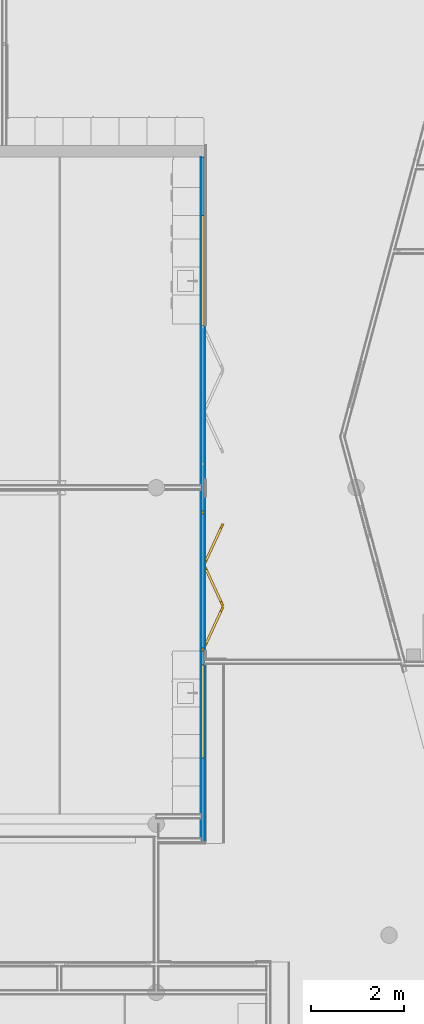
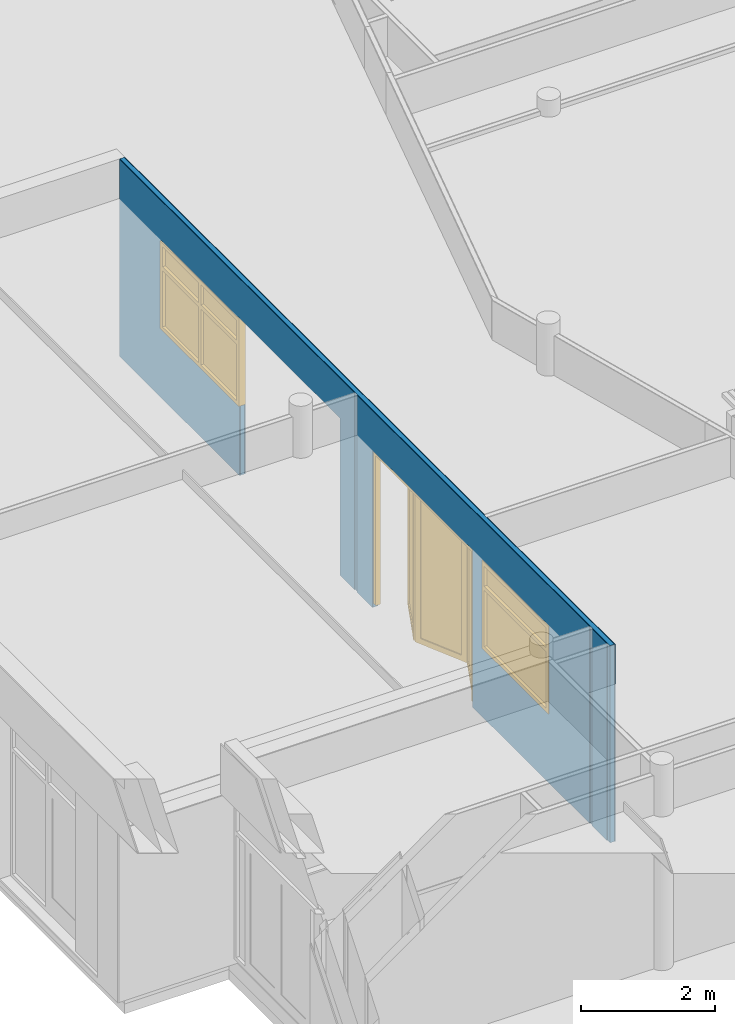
# One storey, part 28 of 167: 3 building element parts, 2 windows, 1 door, 4 openings, 1 element without a shape of its own.
"""IFC2X3 building model written with IfcOpenShell, lengths in millimetres."""

from ifc_helpers import new_model, entity, si_unit, converted_unit, derived_unit, money_unit, direction, frame, origin_with_axes, place, context, subcontext, project, spatial, open_shell, faceted_brep, surface_model, source, transform, mapped, material, type_object, type_shapes, element, fill, aggregate, save


model = new_model("IFC2X3")

# Units and contexts
model_context = context("Model", 3, precision=0.01, world=origin_with_axes(), true_north=direction((0.0, 1.0)))
plan_context = context("Plan", 3, precision=0.01, world=origin_with_axes(), true_north=direction((0.0, 1.0)))
body_context = subcontext(model_context, "Body", "Model", "MODEL_VIEW")
ifc_project = project(units=[si_unit("LENGTHUNIT", "METRE", prefix="MILLI"), si_unit("AREAUNIT", "SQUARE_METRE"), si_unit("VOLUMEUNIT", "CUBIC_METRE"), converted_unit("PLANEANGLEUNIT", "DEGREE", entity("IfcPlaneAngleMeasure", 0.0174532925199), si_unit("PLANEANGLEUNIT", "RADIAN"), dimensions=[0, 0, 0, 0, 0, 0, 0]), si_unit("SOLIDANGLEUNIT", "STERADIAN"), money_unit("EUR"), converted_unit("TIMEUNIT", "Year", entity("IfcTimeMeasure", 31556926.0), si_unit("TIMEUNIT", "SECOND"), dimensions=[0, 0, 1, 0, 0, 0, 0]), si_unit("MASSUNIT", "GRAM", prefix="KILO"), si_unit("THERMODYNAMICTEMPERATUREUNIT", "DEGREE_CELSIUS"), si_unit("LUMINOUSINTENSITYUNIT", "LUMEN"), si_unit("ENERGYUNIT", "JOULE", prefix="MEGA"), derived_unit("THERMALCONDUCTANCEUNIT", [(si_unit("POWERUNIT", "WATT"), 1), (si_unit("LENGTHUNIT", "METRE"), -1), (si_unit("THERMODYNAMICTEMPERATUREUNIT", "KELVIN"), -1)]), derived_unit("SPECIFICHEATCAPACITYUNIT", [(si_unit("ENERGYUNIT", "JOULE"), 1), (si_unit("MASSUNIT", "GRAM", prefix="KILO"), -1), (si_unit("THERMODYNAMICTEMPERATUREUNIT", "KELVIN"), -1)]), derived_unit("MASSDENSITYUNIT", [(si_unit("MASSUNIT", "GRAM", prefix="KILO"), 1), (si_unit("VOLUMEUNIT", "CUBIC_METRE"), -1)])], contexts=[model_context, plan_context])

# Site, building, storey
site_placement = place(None, origin_with_axes())
site = spatial("IfcSite", under=ifc_project, at=site_placement, Name="Site", CompositionType="ELEMENT")
building_placement = place(site_placement, origin_with_axes())
building = spatial("IfcBuilding", under=site, at=building_placement, Name="Naam gebouw", CompositionType="ELEMENT")
storey_placement = place(building_placement, origin_with_axes())
storey = spatial("IfcBuildingStorey", under=building, at=storey_placement, Name="Begane grond", CompositionType="ELEMENT", Elevation=0.0)

# Window
window_style_1 = type_object("IfcWindowStyle", Name="R2 bl ol 24", ConstructionType="NOTDEFINED", OperationType="USERDEFINED", ParameterTakesPrecedence=False, Sizeable=False)
shared_shape_1 = source(origin_with_axes(), body_context, "Body", "SurfaceModel", [
    faceted_brep([(-1108.0, -114.0, 1092.4), (-1108.0, 0.0, 1092.4), (-1108.0, 0.0, 1167.4), (-1108.0, -114.0, 1167.4), (-1108.0, -114.0, 67.0), (-1108.0, 0.0, 67.0), (-1175.0, 0.0, 67.0), (-1175.0, 0.0, 1533.0), (-1108.0, 0.0, 1533.0), (-1108.0, -114.0, 1533.0), (-1175.0, -114.0, 1533.0), (-1175.0, -114.0, 67.0)], [[[0, 1, 2, 3]], [[4, 5, 1, 0]], [[1, 5, 6, 7, 8, 2]], [[3, 2, 8, 9]], [[0, 3, 9, 10, 11, 4]], [[11, 6, 5, 4]], [[10, 7, 6, 11]], [[9, 8, 7, 10]]]),
    faceted_brep([(1108.0, -114.0, 67.0), (1108.0, 0.0, 67.0), (1175.0, 0.0, 67.0), (1175.0, -114.0, 67.0), (1108.0, -114.0, 1092.4), (1108.0, 0.0, 1092.4), (1108.0, 0.0, 1167.4), (1108.0, 0.0, 1533.0), (1175.0, 0.0, 1533.0), (1175.0, -114.0, 1533.0), (1108.0, -114.0, 1533.0), (1108.0, -114.0, 1167.4)], [[[0, 1, 2, 3]], [[4, 5, 1, 0]], [[1, 5, 6, 7, 8, 2]], [[3, 2, 8, 9]], [[0, 3, 9, 10, 11, 4]], [[11, 6, 5, 4]], [[10, 7, 6, 11]], [[9, 8, 7, 10]]]),
    faceted_brep([(-37.5, -114.0, 1167.4), (-37.5, 0.0, 1167.4), (-37.5, 0.0, 1092.4), (-37.5, -114.0, 1092.4), (-37.5, -114.0, 1533.0), (-37.5, 0.0, 1533.0), (37.5, 0.0, 1533.0), (37.5, 0.0, 1167.4), (37.5, 0.0, 1092.4), (37.5, 0.0, 67.0), (-37.5, 0.0, 67.0), (-37.5, -114.0, 67.0), (37.5, -114.0, 67.0), (37.5, -114.0, 1092.4), (37.5, -114.0, 1167.4), (37.5, -114.0, 1533.0)], [[[0, 1, 2, 3]], [[4, 5, 1, 0]], [[1, 5, 6, 7, 8, 9, 10, 2]], [[3, 2, 10, 11]], [[0, 3, 11, 12, 13, 14, 15, 4]], [[15, 6, 5, 4]], [[14, 7, 6, 15]], [[13, 8, 7, 14]], [[12, 9, 8, 13]], [[11, 10, 9, 12]]]),
    faceted_brep([(1108.0, -114.0, 1092.4), (1108.0, 0.0, 1092.4), (1108.0, 0.0, 1167.4), (1108.0, -114.0, 1167.4), (37.5, -114.0, 1092.4), (37.5, 0.0, 1092.4), (37.5, 0.0, 1167.4), (37.5, -114.0, 1167.4)], [[[0, 1, 2, 3]], [[4, 5, 1, 0]], [[1, 5, 6, 2]], [[3, 2, 6, 7]], [[0, 3, 7, 4]], [[7, 6, 5, 4]]]),
    faceted_brep([(-1108.0, -114.0, 1167.4), (-1108.0, 0.0, 1167.4), (-1108.0, 0.0, 1092.4), (-1108.0, -114.0, 1092.4), (-37.5, -114.0, 1167.4), (-37.5, 0.0, 1167.4), (-37.5, 0.0, 1092.4), (-37.5, -114.0, 1092.4)], [[[0, 1, 2, 3]], [[4, 5, 1, 0]], [[1, 5, 6, 2]], [[3, 2, 6, 7]], [[0, 3, 7, 4]], [[7, 6, 5, 4]]]),
    faceted_brep([(-1108.0, -114.0, 67.0), (-1108.0, 0.0, 67.0), (-1175.0, 0.0, 67.0), (-1175.0, -114.0, 67.0), (-37.5, -114.0, 67.0), (-37.5, 0.0, 67.0), (37.5, 0.0, 67.0), (1108.0, 0.0, 67.0), (1175.0, 0.0, 67.0), (1175.0, 0.0, 0.0), (-1175.0, 0.0, 0.0), (-1175.0, -114.0, 0.0), (1175.0, -114.0, 0.0), (1175.0, -114.0, 67.0), (1108.0, -114.0, 67.0), (37.5, -114.0, 67.0)], [[[0, 1, 2, 3]], [[4, 5, 1, 0]], [[1, 5, 6, 7, 8, 9, 10, 2]], [[3, 2, 10, 11]], [[0, 3, 11, 12, 13, 14, 15, 4]], [[15, 6, 5, 4]], [[14, 7, 6, 15]], [[13, 8, 7, 14]], [[12, 9, 8, 13]], [[11, 10, 9, 12]]]),
    faceted_brep([(-37.5, -114.0, 1533.0), (-37.5, 0.0, 1533.0), (37.5, 0.0, 1533.0), (37.5, -114.0, 1533.0), (-1108.0, -114.0, 1533.0), (-1108.0, 0.0, 1533.0), (-1175.0, 0.0, 1533.0), (-1175.0, 0.0, 1600.0), (1175.0, 0.0, 1600.0), (1175.0, 0.0, 1533.0), (1108.0, 0.0, 1533.0), (1108.0, -114.0, 1533.0), (1175.0, -114.0, 1533.0), (1175.0, -114.0, 1600.0), (-1175.0, -114.0, 1600.0), (-1175.0, -114.0, 1533.0)], [[[0, 1, 2, 3]], [[4, 5, 1, 0]], [[1, 5, 6, 7, 8, 9, 10, 2]], [[3, 2, 10, 11]], [[0, 3, 11, 12, 13, 14, 15, 4]], [[15, 6, 5, 4]], [[14, 7, 6, 15]], [[13, 8, 7, 14]], [[12, 9, 8, 13]], [[11, 10, 9, 12]]]),
    surface_model("IfcShellBasedSurfaceModel", [(-1108.0, -64.0, 1167.4), (-37.5, -64.0, 1167.4), (-37.5, -64.0, 1533.0), (-1108.0, -64.0, 1533.0)], [open_shell([[[0, 1, 2, 3]]])]),
    surface_model("IfcShellBasedSurfaceModel", [(-1108.0, -44.0, 1167.4), (-1108.0, -44.0, 1533.0), (-37.5, -44.0, 1533.0), (-37.5, -44.0, 1167.4)], [open_shell([[[0, 1, 2, 3]]])]),
    surface_model("IfcShellBasedSurfaceModel", [(37.5, -64.0, 1167.4), (1108.0, -64.0, 1167.4), (1108.0, -64.0, 1533.0), (37.5, -64.0, 1533.0)], [open_shell([[[0, 1, 2, 3]]])]),
    surface_model("IfcShellBasedSurfaceModel", [(37.5, -44.0, 1167.4), (37.5, -44.0, 1533.0), (1108.0, -44.0, 1533.0), (1108.0, -44.0, 1167.4)], [open_shell([[[0, 1, 2, 3]]])]),
    surface_model("IfcShellBasedSurfaceModel", [(-1108.0, -64.0, 67.0), (-37.5, -64.0, 67.0), (-37.5, -64.0, 1092.4), (-1108.0, -64.0, 1092.4)], [open_shell([[[0, 1, 2, 3]]])]),
    surface_model("IfcShellBasedSurfaceModel", [(-1108.0, -44.0, 67.0), (-1108.0, -44.0, 1092.4), (-37.5, -44.0, 1092.4), (-37.5, -44.0, 67.0)], [open_shell([[[0, 1, 2, 3]]])]),
    surface_model("IfcShellBasedSurfaceModel", [(37.5, -64.0, 67.0), (1108.0, -64.0, 67.0), (1108.0, -64.0, 1092.4), (37.5, -64.0, 1092.4)], [open_shell([[[0, 1, 2, 3]]])]),
    surface_model("IfcShellBasedSurfaceModel", [(37.5, -44.0, 67.0), (37.5, -44.0, 1092.4), (1108.0, -44.0, 1092.4), (1108.0, -44.0, 67.0)], [open_shell([[[0, 1, 2, 3]]])]),
])
type_shapes(window_style_1, [shared_shape_1])
wall_placement = place(storey_placement, frame((8200.0, 21250.0, -100.0), z_axis=(0.0, 0.0, 1.0), x_axis=(0.0, 1.0, 0.0)))
opening_1_placement = place(wall_placement, frame((12200.0, 0.0, 1300.0), z_axis=(0.0, 0.0, 1.0), x_axis=(1.0, 0.0, 0.0)))
window_1_placement = place(opening_1_placement, frame((1175.0, 0.0, 0.0), z_axis=(0.0, 0.0, 1.0), x_axis=(-1.0, 0.0, 0.0)))
window_1 = element("IfcWindow", 1, at=window_1_placement, inside=storey, type_object=window_style_1, Name="31_Raam_Hi-53", ObjectType="WINDOW", OverallHeight=1600.0, OverallWidth=2350.0, context=body_context, shape_type="MappedRepresentation", body=[
    mapped(shared_shape_1, transform((1175.0, 50.0, 0.0))),
])

window_style_2 = type_object("IfcWindowStyle", Name="R1 24", ConstructionType="NOTDEFINED", OperationType="DOUBLE_PANEL_HORIZONTAL", ParameterTakesPrecedence=False, Sizeable=False)
opening_2_placement = place(wall_placement, frame((2758.59620361, 0.0, 1300.0), z_axis=(0.0, 0.0, 1.0), x_axis=(1.0, 0.0, 0.0)))
window_2_placement = place(opening_2_placement, frame((994.596203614, 0.0, 0.0), z_axis=(0.0, 0.0, 1.0), x_axis=(-1.0, 0.0, 0.0)))
window_2 = element("IfcWindow", 2, at=window_2_placement, inside=storey, type_object=window_style_2, Name="31_Raam_Hi-40", ObjectType="WINDOW", OverallHeight=1600.0, OverallWidth=1989.19, context=body_context, shape_type="SurfaceModel", body=[
    faceted_brep([(67.0, -64.0, 1092.4), (67.0, 50.0, 1092.4), (67.0, 50.0, 1167.4), (67.0, -64.0, 1167.4), (67.0, -64.0, 67.0), (67.0, 50.0, 67.0), (0.0, 50.0, 67.0), (0.0, 50.0, 1533.0), (67.0, 50.0, 1533.0), (67.0, -64.0, 1533.0), (0.0, -64.0, 1533.0), (0.0, -64.0, 67.0)], [[[0, 1, 2, 3]], [[4, 5, 1, 0]], [[1, 5, 6, 7, 8, 2]], [[3, 2, 8, 9]], [[0, 3, 9, 10, 11, 4]], [[11, 6, 5, 4]], [[10, 7, 6, 11]], [[9, 8, 7, 10]]]),
    faceted_brep([(1922.19240723, -64.0, 67.0), (1922.19240723, 50.0, 67.0), (1989.19240723, 50.0, 67.0), (1989.19240723, -64.0, 67.0), (1922.19240723, -64.0, 1092.4), (1922.19240723, 50.0, 1092.4), (1922.19240723, 50.0, 1167.4), (1922.19240723, 50.0, 1533.0), (1989.19240723, 50.0, 1533.0), (1989.19240723, -64.0, 1533.0), (1922.19240723, -64.0, 1533.0), (1922.19240723, -64.0, 1167.4)], [[[0, 1, 2, 3]], [[4, 5, 1, 0]], [[1, 5, 6, 7, 8, 2]], [[3, 2, 8, 9]], [[0, 3, 9, 10, 11, 4]], [[11, 6, 5, 4]], [[10, 7, 6, 11]], [[9, 8, 7, 10]]]),
    faceted_brep([(67.0, -64.0, 1167.4), (67.0, 50.0, 1167.4), (67.0, 50.0, 1092.4), (67.0, -64.0, 1092.4), (1922.19240723, -64.0, 1167.4), (1922.19240723, 50.0, 1167.4), (1922.19240723, 50.0, 1092.4), (1922.19240723, -64.0, 1092.4)], [[[0, 1, 2, 3]], [[4, 5, 1, 0]], [[1, 5, 6, 2]], [[3, 2, 6, 7]], [[0, 3, 7, 4]], [[7, 6, 5, 4]]]),
    faceted_brep([(67.0, -64.0, 67.0), (67.0, 50.0, 67.0), (0.0, 50.0, 67.0), (0.0, -64.0, 67.0), (1922.19240723, -64.0, 67.0), (1922.19240723, 50.0, 67.0), (1989.19240723, 50.0, 67.0), (1989.19240723, 50.0, 0.0), (0.0, 50.0, 0.0), (0.0, -64.0, 0.0), (1989.19240723, -64.0, 0.0), (1989.19240723, -64.0, 67.0)], [[[0, 1, 2, 3]], [[4, 5, 1, 0]], [[1, 5, 6, 7, 8, 2]], [[3, 2, 8, 9]], [[0, 3, 9, 10, 11, 4]], [[11, 6, 5, 4]], [[10, 7, 6, 11]], [[9, 8, 7, 10]]]),
    faceted_brep([(1922.19240723, -64.0, 1533.0), (1922.19240723, 50.0, 1533.0), (1989.19240723, 50.0, 1533.0), (1989.19240723, -64.0, 1533.0), (67.0, -64.0, 1533.0), (67.0, 50.0, 1533.0), (0.0, 50.0, 1533.0), (0.0, 50.0, 1600.0), (1989.19240723, 50.0, 1600.0), (1989.19240723, -64.0, 1600.0), (0.0, -64.0, 1600.0), (0.0, -64.0, 1533.0)], [[[0, 1, 2, 3]], [[4, 5, 1, 0]], [[1, 5, 6, 7, 8, 2]], [[3, 2, 8, 9]], [[0, 3, 9, 10, 11, 4]], [[11, 6, 5, 4]], [[10, 7, 6, 11]], [[9, 8, 7, 10]]]),
    surface_model("IfcShellBasedSurfaceModel", [(67.0, -14.0, 1167.4), (1922.19240723, -14.0, 1167.4), (1922.19240723, -14.0, 1533.0), (67.0, -14.0, 1533.0)], [open_shell([[[0, 1, 2, 3]]])]),
    surface_model("IfcShellBasedSurfaceModel", [(67.0, 6.0, 1167.4), (67.0, 6.0, 1533.0), (1922.19240723, 6.0, 1533.0), (1922.19240723, 6.0, 1167.4)], [open_shell([[[0, 1, 2, 3]]])]),
    surface_model("IfcShellBasedSurfaceModel", [(67.0, -14.0, 67.0), (1922.19240723, -14.0, 67.0), (1922.19240723, -14.0, 1092.4), (67.0, -14.0, 1092.4)], [open_shell([[[0, 1, 2, 3]]])]),
    surface_model("IfcShellBasedSurfaceModel", [(67.0, 6.0, 67.0), (67.0, 6.0, 1092.4), (1922.19240723, 6.0, 1092.4), (1922.19240723, 6.0, 67.0)], [open_shell([[[0, 1, 2, 3]]])]),
])

# Door
door_style = type_object("IfcDoorStyle", Name="DV1 24", ConstructionType="NOTDEFINED", OperationType="FOLDING_TO_LEFT", ParameterTakesPrecedence=False, Sizeable=False)
shared_shape_2 = source(origin_with_axes(), body_context, "Body", "SurfaceModel", [
    faceted_brep([(1500.0, 0.0, 0.0), (1500.0, -80.0, 0.0), (1433.0, -80.0, 0.0), (1433.0, 0.0, 0.0), (1500.0, 0.0, 2733.0), (1500.0, -80.0, 2733.0), (1433.0, -80.0, 2733.0), (1433.0, 0.0, 2733.0)], [[[0, 1, 2, 3]], [[4, 5, 1, 0]], [[1, 5, 6, 2]], [[3, 2, 6, 7]], [[0, 3, 7, 4]], [[7, 6, 5, 4]]]),
    faceted_brep([(-1500.0, 0.0, 0.0), (-1500.0, -80.0, 0.0), (-1500.0, -80.0, 2733.0), (-1500.0, 0.0, 2733.0), (-1433.0, 0.0, 0.0), (-1433.0, -80.0, 0.0), (-1433.0, -80.0, 2733.0), (-1433.0, 0.0, 2733.0)], [[[0, 1, 2, 3]], [[4, 5, 1, 0]], [[1, 5, 6, 2]], [[3, 2, 6, 7]], [[0, 3, 7, 4]], [[7, 6, 5, 4]]]),
    faceted_brep([(1500.0, 0.0, 2800.0), (1500.0, -80.0, 2800.0), (1500.0, -80.0, 2733.0), (1500.0, 0.0, 2733.0), (-1500.0, 0.0, 2800.0), (-1500.0, -80.0, 2800.0), (-1500.0, -80.0, 2733.0), (-1433.0, -80.0, 2733.0), (1433.0, -80.0, 2733.0), (1433.0, 0.0, 2733.0), (-1433.0, 0.0, 2733.0), (-1500.0, 0.0, 2733.0)], [[[0, 1, 2, 3]], [[4, 5, 1, 0]], [[1, 5, 6, 7, 8, 2]], [[3, 2, 8, 9]], [[0, 3, 9, 10, 11, 4]], [[11, 6, 5, 4]], [[10, 7, 6, 11]], [[9, 8, 7, 10]]]),
    faceted_brep([(1433.0, 0.0, 100.0), (1412.08677852, -45.4162654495, 100.0), (1321.25424762, -3.58982249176, 100.0), (1342.1674691, 41.8264429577, 100.0), (1433.0, 0.0, 2633.0), (1412.08677852, -45.4162654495, 2633.0), (1321.25424762, -3.58982249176, 2633.0), (1342.1674691, 41.8264429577, 2633.0)], [[[0, 1, 2, 3]], [[4, 5, 1, 0]], [[1, 5, 6, 2]], [[3, 2, 6, 7]], [[0, 3, 7, 4]], [[7, 6, 5, 4]]]),
    faceted_brep([(565.246554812, 399.581951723, 100.0), (544.333333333, 354.165686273, 100.0), (544.333333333, 354.165686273, 2633.0), (565.246554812, 399.581951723, 2633.0), (656.079085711, 357.755508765, 100.0), (635.165864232, 312.339243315, 100.0), (635.165864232, 312.339243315, 2633.0), (656.079085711, 357.755508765, 2633.0)], [[[0, 1, 2, 3]], [[4, 5, 1, 0]], [[1, 5, 6, 2]], [[3, 2, 6, 7]], [[0, 3, 7, 4]], [[7, 6, 5, 4]]]),
    faceted_brep([(1433.0, 0.0, 0.0), (1412.08677852, -45.4162654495, 0.0), (544.333333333, 354.165686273, 0.0), (565.246554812, 399.581951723, 0.0), (1433.0, 0.0, 100.0), (1412.08677852, -45.4162654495, 100.0), (1321.25424762, -3.58982249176, 100.0), (635.165864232, 312.339243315, 100.0), (544.333333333, 354.165686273, 100.0), (565.246554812, 399.581951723, 100.0), (656.079085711, 357.755508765, 100.0), (1342.1674691, 41.8264429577, 100.0)], [[[0, 1, 2, 3]], [[4, 5, 1, 0]], [[1, 5, 6, 7, 8, 2]], [[3, 2, 8, 9]], [[0, 3, 9, 10, 11, 4]], [[11, 6, 5, 4]], [[10, 7, 6, 11]], [[9, 8, 7, 10]]]),
    faceted_brep([(1433.0, 0.0, 2733.0), (1412.08677852, -45.4162654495, 2733.0), (1412.08677852, -45.4162654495, 2633.0), (1433.0, 0.0, 2633.0), (565.246554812, 399.581951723, 2733.0), (544.333333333, 354.165686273, 2733.0), (544.333333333, 354.165686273, 2633.0), (635.165864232, 312.339243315, 2633.0), (1321.25424762, -3.58982249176, 2633.0), (1342.1674691, 41.8264429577, 2633.0), (656.079085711, 357.755508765, 2633.0), (565.246554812, 399.581951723, 2633.0)], [[[0, 1, 2, 3]], [[4, 5, 1, 0]], [[1, 5, 6, 7, 8, 2]], [[3, 2, 8, 9]], [[0, 3, 9, 10, 11, 4]], [[11, 6, 5, 4]], [[10, 7, 6, 11]], [[9, 8, 7, 10]]]),
    surface_model("IfcShellBasedSurfaceModel", [(648.132061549, 340.497327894, 100.0), (648.132061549, 340.497327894, 2633.0), (1334.22044494, 24.5682620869, 2633.0), (1334.22044494, 24.5682620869, 100.0)], [open_shell([[[0, 1, 2, 3]]])]),
    surface_model("IfcShellBasedSurfaceModel", [(643.112888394, 329.597424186, 100.0), (1329.20127178, 13.668358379, 100.0), (1329.20127178, 13.668358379, 2633.0), (643.112888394, 329.597424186, 2633.0)], [open_shell([[[0, 1, 2, 3]]])]),
    faceted_brep([(523.420111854, 399.581951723, 100.0), (544.333333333, 354.165686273, 100.0), (453.500802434, 312.339243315, 100.0), (432.587580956, 357.755508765, 100.0), (523.420111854, 399.581951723, 2633.0), (544.333333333, 354.165686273, 2633.0), (453.500802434, 312.339243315, 2633.0), (432.587580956, 357.755508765, 2633.0)], [[[0, 1, 2, 3]], [[4, 5, 1, 0]], [[1, 5, 6, 2]], [[3, 2, 6, 7]], [[0, 3, 7, 4]], [[7, 6, 5, 4]]]),
    faceted_brep([(-344.333333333, 0.0, 100.0), (-323.420111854, -45.4162654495, 100.0), (-323.420111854, -45.4162654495, 2633.0), (-344.333333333, 0.0, 2633.0), (-253.500802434, 41.8264429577, 100.0), (-232.587580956, -3.58982249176, 100.0), (-232.587580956, -3.58982249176, 2633.0), (-253.500802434, 41.8264429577, 2633.0)], [[[0, 1, 2, 3]], [[4, 5, 1, 0]], [[1, 5, 6, 2]], [[3, 2, 6, 7]], [[0, 3, 7, 4]], [[7, 6, 5, 4]]]),
    faceted_brep([(523.420111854, 399.581951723, 0.0), (544.333333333, 354.165686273, 0.0), (-323.420111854, -45.4162654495, 0.0), (-344.333333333, 0.0, 0.0), (523.420111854, 399.581951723, 100.0), (544.333333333, 354.165686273, 100.0), (453.500802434, 312.339243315, 100.0), (-232.587580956, -3.58982249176, 100.0), (-323.420111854, -45.4162654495, 100.0), (-344.333333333, 0.0, 100.0), (-253.500802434, 41.8264429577, 100.0), (432.587580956, 357.755508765, 100.0)], [[[0, 1, 2, 3]], [[4, 5, 1, 0]], [[1, 5, 6, 7, 8, 2]], [[3, 2, 8, 9]], [[0, 3, 9, 10, 11, 4]], [[11, 6, 5, 4]], [[10, 7, 6, 11]], [[9, 8, 7, 10]]]),
    faceted_brep([(523.420111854, 399.581951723, 2733.0), (544.333333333, 354.165686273, 2733.0), (544.333333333, 354.165686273, 2633.0), (523.420111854, 399.581951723, 2633.0), (-344.333333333, 0.0, 2733.0), (-323.420111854, -45.4162654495, 2733.0), (-323.420111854, -45.4162654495, 2633.0), (-232.587580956, -3.58982249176, 2633.0), (453.500802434, 312.339243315, 2633.0), (432.587580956, 357.755508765, 2633.0), (-253.500802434, 41.8264429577, 2633.0), (-344.333333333, 0.0, 2633.0)], [[[0, 1, 2, 3]], [[4, 5, 1, 0]], [[1, 5, 6, 7, 8, 2]], [[3, 2, 8, 9]], [[0, 3, 9, 10, 11, 4]], [[11, 6, 5, 4]], [[10, 7, 6, 11]], [[9, 8, 7, 10]]]),
    surface_model("IfcShellBasedSurfaceModel", [(-245.553778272, 24.5682620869, 100.0), (-245.553778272, 24.5682620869, 2633.0), (440.534605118, 340.497327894, 2633.0), (440.534605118, 340.497327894, 100.0)], [open_shell([[[0, 1, 2, 3]]])]),
    surface_model("IfcShellBasedSurfaceModel", [(-240.534605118, 13.668358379, 100.0), (445.553778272, 329.597424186, 100.0), (445.553778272, 329.597424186, 2633.0), (-240.534605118, 13.668358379, 2633.0)], [open_shell([[[0, 1, 2, 3]]])]),
    faceted_brep([(-344.333333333, 0.0, 100.0), (-365.246554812, -45.4162654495, 100.0), (-456.079085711, -3.58982249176, 100.0), (-435.165864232, 41.8264429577, 100.0), (-344.333333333, 0.0, 2633.0), (-365.246554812, -45.4162654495, 2633.0), (-456.079085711, -3.58982249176, 2633.0), (-435.165864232, 41.8264429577, 2633.0)], [[[0, 1, 2, 3]], [[4, 5, 1, 0]], [[1, 5, 6, 2]], [[3, 2, 6, 7]], [[0, 3, 7, 4]], [[7, 6, 5, 4]]]),
    faceted_brep([(-1212.08677852, 399.581951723, 100.0), (-1233.0, 354.165686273, 100.0), (-1233.0, 354.165686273, 2633.0), (-1212.08677852, 399.581951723, 2633.0), (-1121.25424762, 357.755508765, 100.0), (-1142.1674691, 312.339243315, 100.0), (-1142.1674691, 312.339243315, 2633.0), (-1121.25424762, 357.755508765, 2633.0)], [[[0, 1, 2, 3]], [[4, 5, 1, 0]], [[1, 5, 6, 2]], [[3, 2, 6, 7]], [[0, 3, 7, 4]], [[7, 6, 5, 4]]]),
    faceted_brep([(-344.333333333, 0.0, 0.0), (-365.246554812, -45.4162654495, 0.0), (-1233.0, 354.165686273, 0.0), (-1212.08677852, 399.581951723, 0.0), (-344.333333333, 0.0, 100.0), (-365.246554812, -45.4162654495, 100.0), (-456.079085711, -3.58982249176, 100.0), (-1142.1674691, 312.339243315, 100.0), (-1233.0, 354.165686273, 100.0), (-1212.08677852, 399.581951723, 100.0), (-1121.25424762, 357.755508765, 100.0), (-435.165864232, 41.8264429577, 100.0)], [[[0, 1, 2, 3]], [[4, 5, 1, 0]], [[1, 5, 6, 7, 8, 2]], [[3, 2, 8, 9]], [[0, 3, 9, 10, 11, 4]], [[11, 6, 5, 4]], [[10, 7, 6, 11]], [[9, 8, 7, 10]]]),
    faceted_brep([(-344.333333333, 0.0, 2733.0), (-365.246554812, -45.4162654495, 2733.0), (-365.246554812, -45.4162654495, 2633.0), (-344.333333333, 0.0, 2633.0), (-1212.08677852, 399.581951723, 2733.0), (-1233.0, 354.165686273, 2733.0), (-1233.0, 354.165686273, 2633.0), (-1142.1674691, 312.339243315, 2633.0), (-456.079085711, -3.58982249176, 2633.0), (-435.165864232, 41.8264429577, 2633.0), (-1121.25424762, 357.755508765, 2633.0), (-1212.08677852, 399.581951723, 2633.0)], [[[0, 1, 2, 3]], [[4, 5, 1, 0]], [[1, 5, 6, 7, 8, 2]], [[3, 2, 8, 9]], [[0, 3, 9, 10, 11, 4]], [[11, 6, 5, 4]], [[10, 7, 6, 11]], [[9, 8, 7, 10]]]),
    surface_model("IfcShellBasedSurfaceModel", [(-1129.20127178, 340.497327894, 100.0), (-1129.20127178, 340.497327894, 2633.0), (-443.112888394, 24.5682620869, 2633.0), (-443.112888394, 24.5682620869, 100.0)], [open_shell([[[0, 1, 2, 3]]])]),
    surface_model("IfcShellBasedSurfaceModel", [(-1134.22044494, 329.597424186, 100.0), (-448.132061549, 13.668358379, 100.0), (-448.132061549, 13.668358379, 2633.0), (-1134.22044494, 329.597424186, 2633.0)], [open_shell([[[0, 1, 2, 3]]])]),
])
type_shapes(door_style, [shared_shape_2])
opening_3_placement = place(wall_placement, frame((5554.0, 0.0, 100.0), z_axis=(0.0, 0.0, 1.0), x_axis=(1.0, 0.0, 0.0)))
door_placement = place(opening_3_placement, frame((1500.0, 0.0, 0.0), z_axis=(0.0, 0.0, 1.0), x_axis=(-1.0, 0.0, 0.0)))
door = element("IfcDoor", 3, at=door_placement, inside=storey, type_object=door_style, Name="32_Deur_Si-02", ObjectType="DOOR", OverallHeight=2800.0, OverallWidth=3000.0, context=body_context, shape_type="MappedRepresentation", body=[
    mapped(shared_shape_2, transform((1500.0, 50.0, 0.0))),
])

# Wall, opening
wall_type = type_object("IfcWallType", Name="_TenW_22_Metalstud 100 enkel gipsvezelplaat 100", PredefinedType="NOTDEFINED")
wall = element("IfcWall", 4, at=wall_placement, inside=storey, type_object=wall_type, Name="22_Wand_Wand-x")
opening_1 = element("IfcOpeningElement", 5, at=opening_1_placement, cuts=wall, Name="31_Raam_Hi-53", context=body_context, shape_type="Brep", body=[
    faceted_brep([(-1175.0, 100.0, 1600.0), (-1175.0, 100.0, 0.0), (-1175.0, -200.0, 0.0), (-1175.0, -200.0, 1600.0), (1175.0, 100.0, 1600.0), (1175.0, 100.0, 0.0), (1175.0, -200.0, 0.0), (1175.0, -200.0, 1600.0)], [[[0, 1, 2, 3]], [[0, 4, 5, 1]], [[1, 5, 6, 2]], [[3, 2, 6, 7]], [[4, 0, 3, 7]], [[5, 4, 7, 6]]]),
])

fill(opening_1, window_1)

# Opening
opening_2 = element("IfcOpeningElement", 6, at=opening_2_placement, cuts=wall, Name="31_Raam_Hi-40", context=body_context, shape_type="Brep", body=[
    faceted_brep([(-994.596203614, 100.0, 1600.0), (-994.596203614, 100.0, 0.0), (-994.596203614, -200.0, 0.0), (-994.596203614, -200.0, 1600.0), (994.596203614, 100.0, 1600.0), (994.596203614, 100.0, 0.0), (994.596203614, -200.0, 0.0), (994.596203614, -200.0, 1600.0)], [[[0, 1, 2, 3]], [[0, 4, 5, 1]], [[1, 5, 6, 2]], [[3, 2, 6, 7]], [[4, 0, 3, 7]], [[5, 4, 7, 6]]]),
])

fill(opening_2, window_2)

opening_3 = element("IfcOpeningElement", 7, at=opening_3_placement, cuts=wall, Name="32_Deur_Si-02", context=body_context, shape_type="Brep", body=[
    faceted_brep([(1500.0, -200.0, 2800.0), (1500.0, -200.0, 0.0), (1500.0, 100.0, 0.0), (1500.0, 100.0, 2800.0), (-1500.0, -200.0, 2800.0), (-1500.0, -200.0, 0.0), (-1500.0, 100.0, 0.0), (-1500.0, 100.0, 2800.0)], [[[0, 1, 2, 3]], [[0, 4, 5, 1]], [[1, 5, 6, 2]], [[3, 2, 6, 7]], [[4, 0, 3, 7]], [[5, 4, 7, 6]]]),
])

fill(opening_3, door)

opening_4_placement = place(wall_placement, frame((9525.0, 0.0, 100.0), z_axis=(0.0, 0.0, 1.0), x_axis=(1.0, 0.0, 0.0)))
element("IfcOpeningElement", 8, at=opening_4_placement, cuts=wall, Name="32_Deur_Si-02s", context=body_context, shape_type="Brep", body=[
    faceted_brep([(-1500.0, 100.0, 2800.0), (-1500.0, 100.0, 0.0), (-1500.0, -200.0, 0.0), (-1500.0, -200.0, 2800.0), (1500.0, 100.0, 2800.0), (1500.0, 100.0, 0.0), (1500.0, -200.0, 0.0), (1500.0, -200.0, 2800.0)], [[[0, 1, 2, 3]], [[0, 4, 5, 1]], [[1, 5, 6, 2]], [[3, 2, 6, 7]], [[4, 0, 3, 7]], [[5, 4, 7, 6]]]),
])

# Building element part
ifc_material_1 = material(Name="Gipsplaat watervast")
building_element_part_1_placement = place(wall_placement, origin_with_axes())
building_element_part_1 = element("IfcBuildingElementPart", 9, at=building_element_part_1_placement, material=ifc_material_1, Name="Gipsplaat watervast", context=body_context, shape_type="Brep", body=[
    faceted_brep([(37.5, 37.5, 30.0), (476.5, 37.5, 30.0), (476.5, 37.5, 3630.0), (37.5, 37.5, 3630.0), (476.5, 50.0, 30.0), (37.5, 50.0, 30.0), (476.5, 50.0, 3630.0), (37.5, 50.0, 3630.0)], [[[0, 1, 2, 3]], [[4, 1, 0, 5]], [[1, 4, 6, 2]], [[2, 6, 7, 3]], [[5, 0, 3, 7]], [[4, 5, 7, 6]]]),
    faceted_brep([(11025.0, 50.0, 1300.0), (11025.0, 37.5, 1300.0), (13375.0, 37.5, 1300.0), (13375.0, 50.0, 1300.0), (11025.0, 37.5, 100.0), (11025.0, 50.0, 100.0), (8025.0, 37.5, 100.0), (8025.0, 37.5, 2900.0), (11025.0, 37.5, 2900.0), (13375.0, 37.5, 2900.0), (11025.0, 37.5, 30.0), (14625.0, 37.5, 30.0), (14625.0, 37.5, 3630.0), (7587.5, 37.5, 3630.0), (7587.5, 37.5, 30.0), (8025.0, 37.5, 30.0), (13375.0, 50.0, 2900.0), (8025.0, 50.0, 2900.0), (8025.0, 50.0, 100.0), (8025.0, 50.0, 30.0), (7587.5, 50.0, 30.0), (7587.5, 50.0, 3630.0), (14625.0, 50.0, 3630.0), (14625.0, 50.0, 30.0), (11025.0, 50.0, 30.0), (11025.0, 50.0, 2900.0)], [[[0, 1, 2, 3]], [[4, 1, 0, 5]], [[6, 7, 8, 9, 2, 1, 4, 10, 11, 12, 13, 14, 15]], [[9, 16, 3, 2]], [[17, 18, 19, 20, 21, 22, 23, 24, 5, 0, 3, 16, 25]], [[4, 5, 24, 10]], [[7, 6, 18, 17]], [[8, 7, 17, 25, 16, 9]], [[23, 11, 10, 24]], [[22, 12, 11, 23]], [[22, 21, 13, 12]], [[13, 21, 20, 14]], [[14, 20, 19, 15]], [[18, 6, 15, 19]]]),
    faceted_brep([(4054.0, 37.5, 100.0), (4054.0, 37.5, 2900.0), (7054.0, 37.5, 2900.0), (7054.0, 37.5, 100.0), (7054.0, 37.5, 30.0), (7512.5, 37.5, 30.0), (7512.5, 37.5, 3630.0), (551.5, 37.5, 3630.0), (551.5, 37.5, 30.0), (4054.0, 37.5, 30.0), (1764.0, 37.5, 2900.0), (3753.19240723, 37.5, 2900.0), (3753.19240723, 37.5, 1300.0), (1764.0, 37.5, 1300.0), (4054.0, 50.0, 100.0), (4054.0, 50.0, 2900.0), (7054.0, 50.0, 2900.0), (7054.0, 50.0, 100.0), (7054.0, 50.0, 30.0), (7512.5, 50.0, 30.0), (7512.5, 50.0, 3630.0), (551.5, 50.0, 3630.0), (551.5, 50.0, 30.0), (4054.0, 50.0, 30.0), (1764.0, 50.0, 2900.0), (3753.19240723, 50.0, 2900.0), (3753.19240723, 50.0, 1300.0), (1764.0, 50.0, 1300.0)], [[[0, 1, 2, 3, 4, 5, 6, 7, 8, 9], [10, 11, 12, 13]], [[1, 0, 14, 15]], [[2, 1, 15, 16]], [[3, 2, 16, 17]], [[3, 17, 18, 4]], [[19, 5, 4, 18]], [[20, 6, 5, 19]], [[21, 7, 6, 20]], [[7, 21, 22, 8]], [[8, 22, 23, 9]], [[14, 0, 9, 23]], [[10, 24, 25, 11]], [[11, 25, 26, 12]], [[12, 26, 27, 13]], [[13, 27, 24, 10]], [[15, 14, 23, 22, 21, 20, 19, 18, 17, 16], [26, 25, 24, 27]]]),
])

ifc_material_2 = material(Name="Isolatie - Steenwol zacht")
building_element_part_2_placement = place(wall_placement, origin_with_axes())
building_element_part_2 = element("IfcBuildingElementPart", 10, at=building_element_part_2_placement, material=ifc_material_2, Name="Isolatie - Steenwol zacht", context=body_context, shape_type="Brep", body=[
    faceted_brep([(11025.0, 37.5, 1300.0), (11025.0, -37.5, 1300.0), (13375.0, -37.5, 1300.0), (13375.0, 37.5, 1300.0), (11025.0, -37.5, 100.0), (11025.0, 37.5, 100.0), (8025.0, -37.5, 100.0), (8025.0, -37.5, 2900.0), (11025.0, -37.5, 2900.0), (13375.0, -37.5, 2900.0), (11025.0, -37.5, 30.0), (14625.0, -37.5, 30.0), (14625.0, -37.5, 3630.0), (-37.5, -37.5, 3630.0), (-37.5, -37.5, 30.0), (4054.0, -37.5, 30.0), (4054.0, -37.5, 100.0), (4054.0, -37.5, 2900.0), (7054.0, -37.5, 2900.0), (7054.0, -37.5, 100.0), (7054.0, -37.5, 30.0), (8025.0, -37.5, 30.0), (3753.19240723, -37.5, 2900.0), (3753.19240723, -37.5, 1300.0), (1764.0, -37.5, 1300.0), (1764.0, -37.5, 2900.0), (13375.0, 37.5, 2900.0), (8025.0, 37.5, 2900.0), (8025.0, 37.5, 100.0), (8025.0, 37.5, 30.0), (7054.0, 37.5, 30.0), (7054.0, 37.5, 100.0), (7054.0, 37.5, 2900.0), (4054.0, 37.5, 2900.0), (4054.0, 37.5, 100.0), (4054.0, 37.5, 30.0), (-37.5, 37.5, 30.0), (-37.5, 37.5, 3630.0), (14625.0, 37.5, 3630.0), (14625.0, 37.5, 30.0), (11025.0, 37.5, 30.0), (11025.0, 37.5, 2900.0), (3753.19240723, 37.5, 2900.0), (1764.0, 37.5, 2900.0), (1764.0, 37.5, 1300.0), (3753.19240723, 37.5, 1300.0)], [[[0, 1, 2, 3]], [[4, 1, 0, 5]], [[6, 7, 8, 9, 2, 1, 4, 10, 11, 12, 13, 14, 15, 16, 17, 18, 19, 20, 21], [22, 23, 24, 25]], [[3, 2, 9, 26]], [[27, 28, 29, 30, 31, 32, 33, 34, 35, 36, 37, 38, 39, 40, 5, 0, 3, 26, 41], [42, 43, 44, 45]], [[4, 5, 40, 10]], [[7, 6, 28, 27]], [[8, 7, 27, 41, 26, 9]], [[10, 40, 39, 11]], [[11, 39, 38, 12]], [[13, 12, 38, 37]], [[36, 14, 13, 37]], [[35, 15, 14, 36]], [[16, 15, 35, 34]], [[16, 34, 33, 17]], [[17, 33, 32, 18]], [[18, 32, 31, 19]], [[31, 30, 20, 19]], [[29, 21, 20, 30]], [[28, 6, 21, 29]], [[42, 45, 23, 22]], [[45, 44, 24, 23]], [[44, 43, 25, 24]], [[43, 42, 22, 25]]]),
])

building_element_part_3_placement = place(wall_placement, origin_with_axes())
building_element_part_3 = element("IfcBuildingElementPart", 11, at=building_element_part_3_placement, material=ifc_material_1, Name="Gipsplaat watervast", context=body_context, shape_type="Brep", body=[
    faceted_brep([(11025.0, -37.5, 1300.0), (11025.0, -50.0, 1300.0), (13375.0, -50.0, 1300.0), (13375.0, -37.5, 1300.0), (11025.0, -50.0, 100.0), (11025.0, -37.5, 100.0), (8025.0, -50.0, 100.0), (8025.0, -50.0, 2900.0), (11025.0, -50.0, 2900.0), (13375.0, -50.0, 2900.0), (11025.0, -50.0, 30.0), (14625.0, -50.0, 30.0), (14625.0, -50.0, 3630.0), (3859.04575717, -50.0, 3630.0), (3859.04575717, -50.0, 30.0), (4054.0, -50.0, 30.0), (4054.0, -50.0, 100.0), (4054.0, -50.0, 2900.0), (7054.0, -50.0, 2900.0), (7054.0, -50.0, 100.0), (7054.0, -50.0, 30.0), (8025.0, -50.0, 30.0), (13375.0, -37.5, 2900.0), (8025.0, -37.5, 2900.0), (8025.0, -37.5, 100.0), (8025.0, -37.5, 30.0), (7054.0, -37.5, 30.0), (7054.0, -37.5, 100.0), (7054.0, -37.5, 2900.0), (4054.0, -37.5, 2900.0), (4054.0, -37.5, 100.0), (4054.0, -37.5, 30.0), (3859.04575717, -37.5, 30.0), (3859.04575717, -37.5, 3630.0), (14625.0, -37.5, 3630.0), (14625.0, -37.5, 30.0), (11025.0, -37.5, 30.0), (11025.0, -37.5, 2900.0)], [[[0, 1, 2, 3]], [[4, 1, 0, 5]], [[6, 7, 8, 9, 2, 1, 4, 10, 11, 12, 13, 14, 15, 16, 17, 18, 19, 20, 21]], [[22, 3, 2, 9]], [[23, 24, 25, 26, 27, 28, 29, 30, 31, 32, 33, 34, 35, 36, 5, 0, 3, 22, 37]], [[4, 5, 36, 10]], [[7, 6, 24, 23]], [[8, 7, 23, 37, 22, 9]], [[11, 10, 36, 35]], [[12, 11, 35, 34]], [[33, 13, 12, 34]], [[33, 32, 14, 13]], [[32, 31, 15, 14]], [[16, 15, 31, 30]], [[16, 30, 29, 17]], [[17, 29, 28, 18]], [[18, 28, 27, 19]], [[27, 26, 20, 19]], [[26, 25, 21, 20]], [[24, 6, 21, 25]]]),
    faceted_brep([(-50.0, -37.5, 30.0), (-50.0, -37.5, 3630.0), (3784.04575717, -37.5, 3630.0), (3784.04575717, -37.5, 30.0), (1764.0, -37.5, 1300.0), (3753.19240723, -37.5, 1300.0), (3753.19240723, -37.5, 2900.0), (1764.0, -37.5, 2900.0), (-50.0, -50.0, 30.0), (-50.0, -50.0, 3630.0), (3784.04575717, -50.0, 3630.0), (3784.04575717, -50.0, 30.0), (1764.0, -50.0, 1300.0), (3753.19240723, -50.0, 1300.0), (3753.19240723, -50.0, 2900.0), (1764.0, -50.0, 2900.0)], [[[0, 1, 2, 3], [4, 5, 6, 7]], [[8, 9, 1, 0]], [[2, 1, 9, 10]], [[3, 2, 10, 11]], [[11, 8, 0, 3]], [[12, 13, 5, 4]], [[13, 14, 6, 5]], [[14, 15, 7, 6]], [[15, 12, 4, 7]], [[11, 10, 9, 8], [12, 15, 14, 13]]]),
])

aggregate(wall, [building_element_part_1, building_element_part_2, building_element_part_3])

save(model, "model.ifc")
